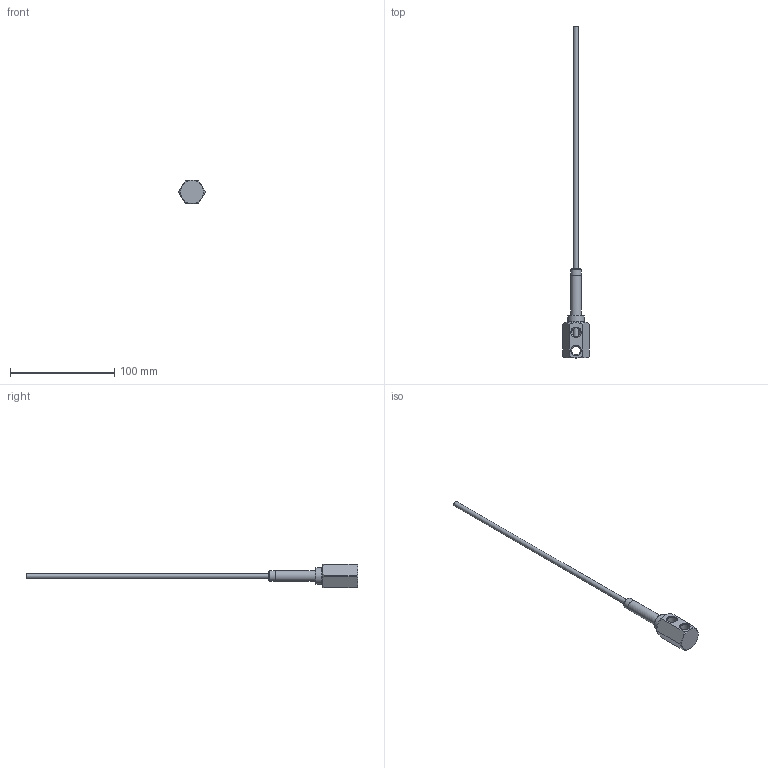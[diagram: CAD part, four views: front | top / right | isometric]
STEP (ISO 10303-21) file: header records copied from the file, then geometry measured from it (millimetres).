
FILE_DESCRIPTION(/* description */ (''),/* implementation_level */ '2;1');
FILE_NAME(/* name */ 'C:/Users/drich/Desktop/186N v1.step',/* time_stamp */ '2020-01-15T19:40:50-06:00',/* author */ (''),/* organization */ (''),/* preprocessor_version */ 'ST-DEVELOPER v18',/* originating_system */ 'Autodesk Translation Framework v8.12.0.6',/* authorisation */ '');
FILE_SCHEMA (('AUTOMOTIVE_DESIGN { 1 0 10303 214 3 1 1 }'));
Length unit declared in the file: inch
Products named in the file (4): 186N; 186H; SSPN18-2; 187T-12
Assembly tree (3 placements, depth 2):
  186N
    186H
    SSPN18-2
    187T-12
Bounding box: 25.65 x 319.15 x 22.23 mm (x, y, z)
Volume: 18074.5 mm3; surface area: 15285.1 mm2
Topology: 3 solids, 3 shells, 60 faces, 164 edges, 112 vertices
Faces by surface type: cone 25, cylinder 18, plane 15, torus 2
Full cylindrical faces by diameter (mm): 3.124 x1, 4.064 x1, 4.727 x1, 6.833 x1, 8.707 x4, 10.262 x2, 10.312 x1, 15.875 x1
Entity records: 2126 total; most frequent: CARTESIAN_POINT 455, DIRECTION 351, ORIENTED_EDGE 328, EDGE_CURVE 164, AXIS2_PLACEMENT_3D 153, VERTEX_POINT 112, CIRCLE 84, EDGE_LOOP 72
